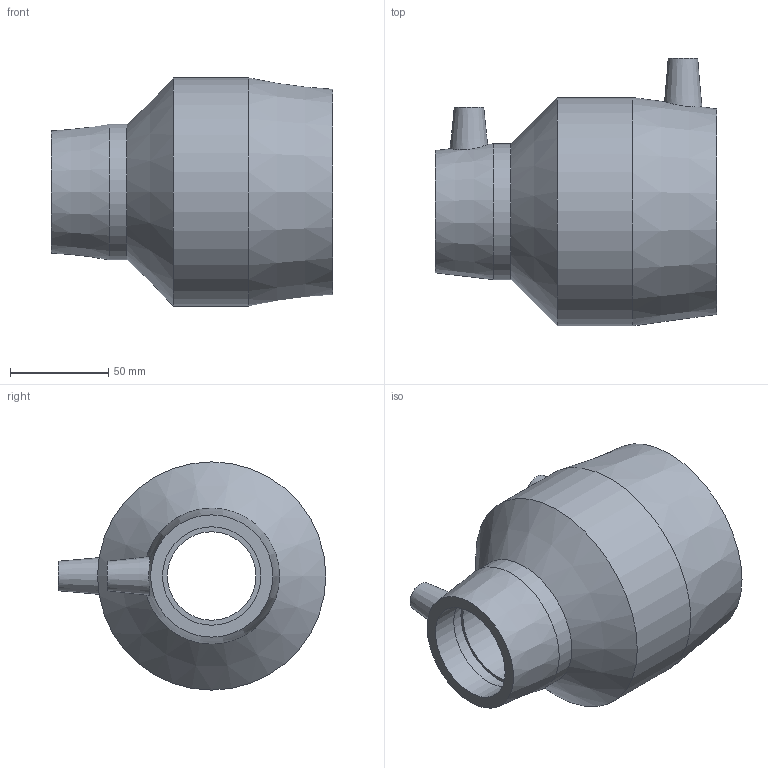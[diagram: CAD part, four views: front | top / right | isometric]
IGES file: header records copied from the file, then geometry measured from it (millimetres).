
Global section: file name: 491104090050.ipt; native system: Autodesk Inventor 2015; preprocessor: unknown; author: KIM; date: 20171106.093733; units: millimetre
Bounding box: 143 x 136 x 116 mm (x, y, z)
Volume: 479087.5 mm3; surface area: 89348.9 mm2
Topology: 1 solids, 1 shells, 31 faces, 72 edges, 51 vertices
Faces by surface type: plane 12, revolution 10, cone 5, cylinder 4
Full cylindrical faces by diameter (mm): 4 x2, 69 x1, 116 x1
